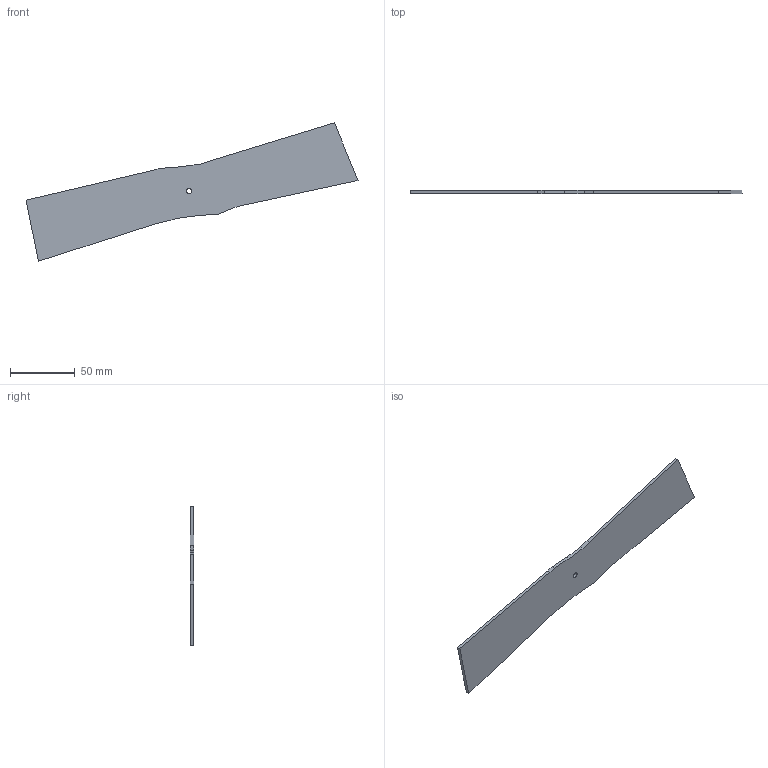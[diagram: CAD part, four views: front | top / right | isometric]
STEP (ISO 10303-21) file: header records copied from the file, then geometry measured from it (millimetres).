
FILE_DESCRIPTION(('CATIA V5 STEP Exchange'),'2;1');
FILE_NAME('E:\WAT\Sprezarka\121_00_00_Tlocznik1\Tlocznik1_stp\Lopatka_plaska.stp','2022-09-24T10:16:19+00:00',('none'),('none'),'CATIA Version 5 Release 20 SP 4 (IN-10)','CATIA V5 STEP AP214','none');
FILE_SCHEMA(('AUTOMOTIVE_DESIGN { 1 0 10303 214 1 1 1 1 }'));
Length unit declared in the file: millimetre
Products named in the file (1): Lopatka_plaska
Bounding box: 256.7 x 2.75 x 107.1 mm (x, y, z)
Volume: 28056.8 mm3; surface area: 23170.4 mm2
Topology: 1 solids, 1 shells, 18 faces, 48 edges, 33 vertices
Faces by surface type: plane 16, cylinder 2
Entity records: 758 total; most frequent: CARTESIAN_POINT 146, ORIENTED_EDGE 96, DIRECTION 82, EDGE_CURVE 48, VECTOR 44, LINE 44, VERTEX_POINT 32, AXIS2_PLACEMENT_3D 21
